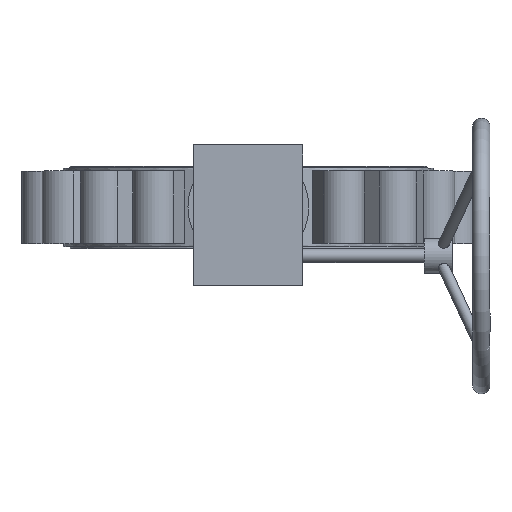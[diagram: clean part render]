
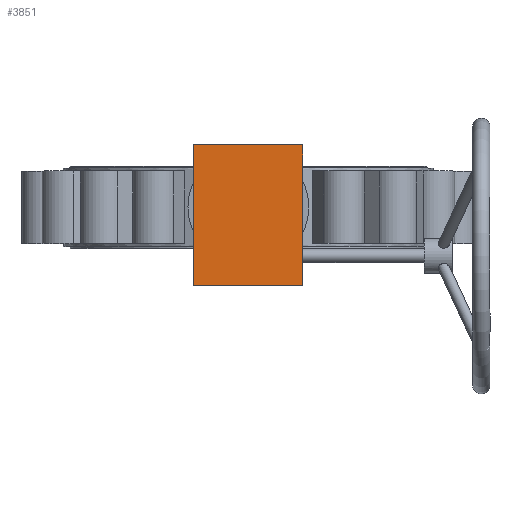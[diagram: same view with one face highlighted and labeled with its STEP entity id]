
A CAD part, top view. The second image highlights one B-rep face of the part: STEP entity #3851.
In plain terms, the highlighted planar face has unit normal (0, 0, 1) as drawn and (0, -1, 0) by its records, which use the part's own axes.
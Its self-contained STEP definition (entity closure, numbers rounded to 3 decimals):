
#495 = VECTOR ( 'NONE', #9989, 1000. ) ;
#765 = EDGE_LOOP ( 'NONE', ( #9376, #5735, #2616, #9394 ) ) ;
#828 = LINE ( 'NONE', #5227, #7115 ) ;
#1017 = DIRECTION ( 'NONE',  ( 0., 0., -1. ) ) ;
#1563 = PLANE ( 'NONE',  #2197 ) ;
#1690 = VERTEX_POINT ( 'NONE', #6013 ) ;
#1754 = DIRECTION ( 'NONE',  ( 0., 0., -1. ) ) ;
#1889 = VERTEX_POINT ( 'NONE', #3945 ) ;
#2140 = EDGE_CURVE ( 'NONE', #1690, #5575, #5357, .T. ) ;
#2197 = AXIS2_PLACEMENT_3D ( 'NONE', #4032, #7753, #1017 ) ;
#2279 = LINE ( 'NONE', #3738, #4461 ) ;
#2428 = FACE_OUTER_BOUND ( 'NONE', #765, .T. ) ;
#2616 = ORIENTED_EDGE ( 'NONE', *, *, #5674, .T. ) ;
#3738 = CARTESIAN_POINT ( 'NONE',  ( 78.945, 2.5, 114.518 ) ) ;
#3745 = VECTOR ( 'NONE', #1754, 1000. ) ;
#3851 = ADVANCED_FACE ( 'NONE', ( #2428 ), #1563, .T. ) ;
#3945 = CARTESIAN_POINT ( 'NONE',  ( 78.945, 2.5, 114.518 ) ) ;
#4032 = CARTESIAN_POINT ( 'NONE',  ( 0., 2.5, 0. ) ) ;
#4445 = CARTESIAN_POINT ( 'NONE',  ( -78.945, 2.5, -89.595 ) ) ;
#4461 = VECTOR ( 'NONE', #6101, 1000. ) ;
#4887 = EDGE_CURVE ( 'NONE', #8864, #1690, #5197, .T. ) ;
#5197 = LINE ( 'NONE', #7055, #3745 ) ;
#5227 = CARTESIAN_POINT ( 'NONE',  ( -78.945, 2.5, 114.518 ) ) ;
#5292 = CARTESIAN_POINT ( 'NONE',  ( 78.945, 2.5, -89.595 ) ) ;
#5357 = LINE ( 'NONE', #4445, #495 ) ;
#5575 = VERTEX_POINT ( 'NONE', #5292 ) ;
#5674 = EDGE_CURVE ( 'NONE', #1889, #8864, #828, .T. ) ;
#5735 = ORIENTED_EDGE ( 'NONE', *, *, #5800, .T. ) ;
#5800 = EDGE_CURVE ( 'NONE', #5575, #1889, #2279, .T. ) ;
#6013 = CARTESIAN_POINT ( 'NONE',  ( -78.945, 2.5, -89.595 ) ) ;
#6101 = DIRECTION ( 'NONE',  ( 0., 0., 1. ) ) ;
#7055 = CARTESIAN_POINT ( 'NONE',  ( -78.945, 2.5, 114.518 ) ) ;
#7115 = VECTOR ( 'NONE', #7592, 1000. ) ;
#7126 = CARTESIAN_POINT ( 'NONE',  ( -78.945, 2.5, 114.518 ) ) ;
#7592 = DIRECTION ( 'NONE',  ( -1., 0., 0. ) ) ;
#7753 = DIRECTION ( 'NONE',  ( 0., -1., 0. ) ) ;
#8864 = VERTEX_POINT ( 'NONE', #7126 ) ;
#9376 = ORIENTED_EDGE ( 'NONE', *, *, #2140, .T. ) ;
#9394 = ORIENTED_EDGE ( 'NONE', *, *, #4887, .T. ) ;
#9989 = DIRECTION ( 'NONE',  ( 1., 0., 0. ) ) ;
